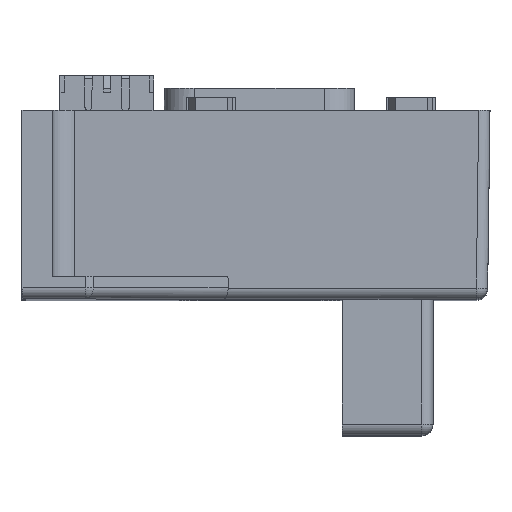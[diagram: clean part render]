
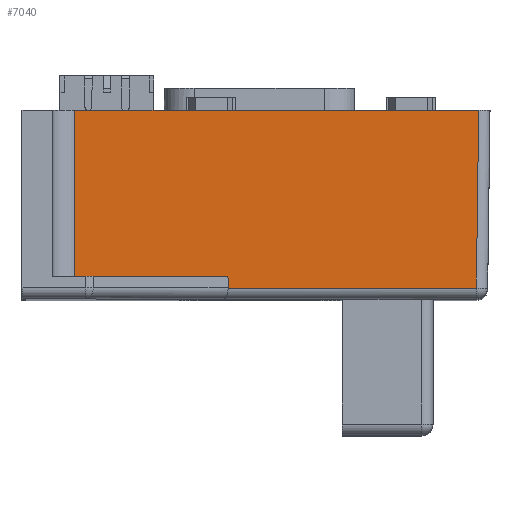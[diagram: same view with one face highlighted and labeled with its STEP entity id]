
A CAD part, top view. The second image highlights one B-rep face of the part: STEP entity #7040.
In plain terms, the highlighted planar face has unit normal (0, -0.013, 1) as drawn and (1, 0, -0.013) by its records, which use the part's own axes.
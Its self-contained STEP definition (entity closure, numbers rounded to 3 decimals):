
#2930=CARTESIAN_POINT('',(54.092,27.508,
1.48));
#2940=VERTEX_POINT('',#2930);
#3030=CARTESIAN_POINT('',(54.092,27.508,1.5));
#3040=VERTEX_POINT('',#3030);
#3070=CARTESIAN_POINT('',(54.092,25.386,1.5));
#3080=DIRECTION('',(1.,0.,-0.013));
#3090=DIRECTION('',(0.,-1.,
0.013));
#3100=AXIS2_PLACEMENT_3D('',#3070,#3080,#3090);
#3110=ELLIPSE('',#3100,2.122,1.5);
#3120=EDGE_CURVE('',#2940,#3040,#3110,.T.);
#3980=CARTESIAN_POINT('',(54.092,0.,1.48));
#3990=DIRECTION('',(0.,1.,0.));
#4000=VECTOR('',#3990,1.);
#4010=LINE('',#3980,#4000);
#4020=CARTESIAN_POINT('',(54.092,60.392,
1.48));
#4030=VERTEX_POINT('',#4020);
#4040=EDGE_CURVE('',#2940,#4030,#4010,.T.);
#6180=CARTESIAN_POINT('',(54.112,7.2,3.));
#6190=VERTEX_POINT('',#6180);
#6240=CARTESIAN_POINT('',(54.112,0.,3.));
#6250=DIRECTION('',(0.,1.,0.));
#6260=VECTOR('',#6250,1.);
#6270=LINE('',#6240,#6260);
#6280=CARTESIAN_POINT('',(54.112,27.488,3.));
#6290=VERTEX_POINT('',#6280);
#6300=EDGE_CURVE('',#6190,#6290,#6270,.T.);
#6660=CARTESIAN_POINT('',(54.4,0.,25.));
#6670=DIRECTION('',(1.,0.,-0.013));
#6680=DIRECTION('',(0.,-1.,0.));
#6690=AXIS2_PLACEMENT_3D('',#6660,#6670,#6680);
#6700=PLANE('',#6690);
#6710=ORIENTED_EDGE('',*,*,#4040,.T.);
#6720=ORIENTED_EDGE('',*,*,#3120,.F.);
#6730=CARTESIAN_POINT('',(54.073,27.527,0.));
#6740=DIRECTION('',(-0.013,0.013,
-1.));
#6750=VECTOR('',#6740,1.);
#6760=LINE('',#6730,#6750);
#6770=EDGE_CURVE('',#6290,#3040,#6760,.T.);
#6780=ORIENTED_EDGE('',*,*,#6770,.T.);
#6790=ORIENTED_EDGE('',*,*,#6300,.T.);
#6800=CARTESIAN_POINT('',(54.073,7.2,0.039));
#6810=DIRECTION('',(-0.013,0.,
-1.));
#6820=VECTOR('',#6810,1.);
#6830=LINE('',#6800,#6820);
#6840=CARTESIAN_POINT('',(54.4,7.2,25.));
#6850=VERTEX_POINT('',#6840);
#6860=EDGE_CURVE('',#6850,#6190,#6830,.T.);
#6870=ORIENTED_EDGE('',*,*,#6860,.T.);
#6880=CARTESIAN_POINT('',(54.4,27.2,25.));
#6890=DIRECTION('',(0.,1.,0.));
#6900=VECTOR('',#6890,1.);
#6910=LINE('',#6880,#6900);
#6920=CARTESIAN_POINT('',(54.4,60.7,25.));
#6930=VERTEX_POINT('',#6920);
#6940=EDGE_CURVE('',#6850,#6930,#6910,.T.);
#6950=ORIENTED_EDGE('',*,*,#6940,.F.);
#6960=CARTESIAN_POINT('',(54.072,60.373,
-0.02));
#6970=DIRECTION('',(-0.013,-0.013,
-1.));
#6980=VECTOR('',#6970,1.);
#6990=LINE('',#6960,#6980);
#7000=EDGE_CURVE('',#6930,#4030,#6990,.T.);
#7010=ORIENTED_EDGE('',*,*,#7000,.F.);
#7020=EDGE_LOOP('',(#7010,#6950,#6870,#6790,#6780,#6720,#6710));
#7030=FACE_OUTER_BOUND('',#7020,.T.);
#7040=ADVANCED_FACE('',(#7030),#6700,.T.);
